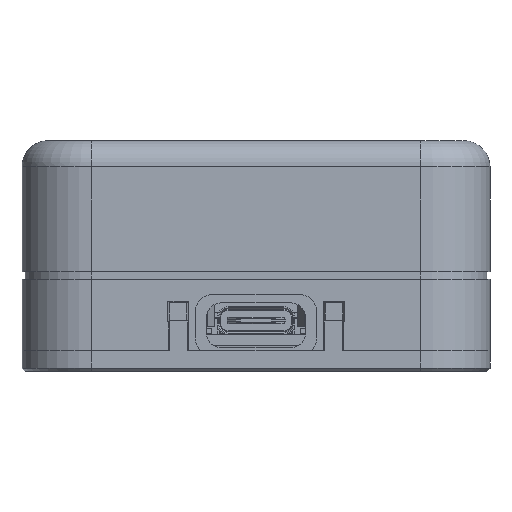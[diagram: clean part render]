
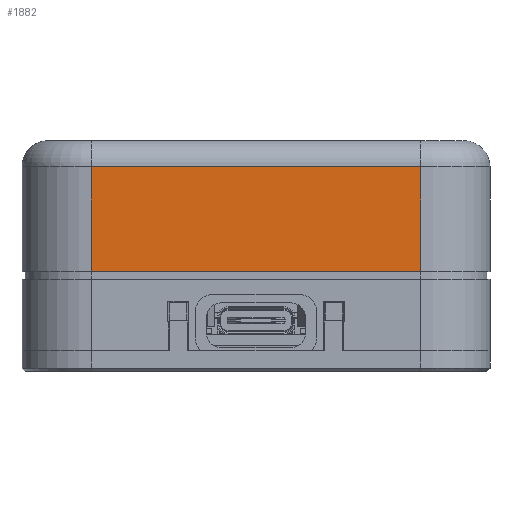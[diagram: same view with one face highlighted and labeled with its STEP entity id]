
A CAD part, front view. The second image highlights one B-rep face of the part: STEP entity #1882.
In plain terms, the highlighted planar face has unit normal (0, -1, 0).
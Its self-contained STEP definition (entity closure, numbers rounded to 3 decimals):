
#257 = CYLINDRICAL_SURFACE('',#258,3.);
#258 = AXIS2_PLACEMENT_3D('',#259,#260,#261);
#259 = CARTESIAN_POINT('',(19.,-21.,23.6));
#260 = DIRECTION('',(-1.,-0.,-0.));
#261 = DIRECTION('',(-0.,0.,1.));
#860 = VERTEX_POINT('',#861);
#861 = CARTESIAN_POINT('',(19.,-24.,23.6));
#896 = CYLINDRICAL_SURFACE('',#897,8.);
#897 = AXIS2_PLACEMENT_3D('',#898,#899,#900);
#898 = CARTESIAN_POINT('',(19.,-16.,2.4));
#899 = DIRECTION('',(0.,0.,1.));
#900 = DIRECTION('',(1.,0.,-0.));
#912 = EDGE_CURVE('',#860,#913,#915,.T.);
#913 = VERTEX_POINT('',#914);
#914 = CARTESIAN_POINT('',(-19.,-24.,23.6));
#915 = SURFACE_CURVE('',#916,(#920,#927),.PCURVE_S1.);
#916 = LINE('',#917,#918);
#917 = CARTESIAN_POINT('',(19.,-24.,23.6));
#918 = VECTOR('',#919,1.);
#919 = DIRECTION('',(-1.,-0.,-0.));
#920 = PCURVE('',#257,#921);
#921 = DEFINITIONAL_REPRESENTATION('',(#922),#926);
#922 = LINE('',#923,#924);
#923 = CARTESIAN_POINT('',(-1.571,0.));
#924 = VECTOR('',#925,1.);
#925 = DIRECTION('',(-0.,1.));
#926 = ( GEOMETRIC_REPRESENTATION_CONTEXT(2) 
PARAMETRIC_REPRESENTATION_CONTEXT() REPRESENTATION_CONTEXT('2D SPACE',''
  ) );
#927 = PCURVE('',#928,#933);
#928 = PLANE('',#929);
#929 = AXIS2_PLACEMENT_3D('',#930,#931,#932);
#930 = CARTESIAN_POINT('',(-27.,-24.,2.4));
#931 = DIRECTION('',(0.,1.,0.));
#932 = DIRECTION('',(0.,0.,1.));
#933 = DEFINITIONAL_REPRESENTATION('',(#934),#938);
#934 = LINE('',#935,#936);
#935 = CARTESIAN_POINT('',(21.2,46.));
#936 = VECTOR('',#937,1.);
#937 = DIRECTION('',(0.,-1.));
#938 = ( GEOMETRIC_REPRESENTATION_CONTEXT(2) 
PARAMETRIC_REPRESENTATION_CONTEXT() REPRESENTATION_CONTEXT('2D SPACE',''
  ) );
#1040 = CYLINDRICAL_SURFACE('',#1041,8.);
#1041 = AXIS2_PLACEMENT_3D('',#1042,#1043,#1044);
#1042 = CARTESIAN_POINT('',(-19.,-16.,2.4));
#1043 = DIRECTION('',(0.,0.,1.));
#1044 = DIRECTION('',(-1.,-0.,0.));
#1655 = PLANE('',#1656);
#1656 = AXIS2_PLACEMENT_3D('',#1657,#1658,#1659);
#1657 = CARTESIAN_POINT('',(-27.5,-24.5,11.5));
#1658 = DIRECTION('',(0.,0.,1.));
#1659 = DIRECTION('',(1.,0.,0.));
#1838 = VERTEX_POINT('',#1839);
#1839 = CARTESIAN_POINT('',(19.,-24.,11.5));
#1861 = EDGE_CURVE('',#1838,#860,#1862,.T.);
#1862 = SURFACE_CURVE('',#1863,(#1867,#1874),.PCURVE_S1.);
#1863 = LINE('',#1864,#1865);
#1864 = CARTESIAN_POINT('',(19.,-24.,2.4));
#1865 = VECTOR('',#1866,1.);
#1866 = DIRECTION('',(0.,0.,1.));
#1867 = PCURVE('',#896,#1868);
#1868 = DEFINITIONAL_REPRESENTATION('',(#1869),#1873);
#1869 = LINE('',#1870,#1871);
#1870 = CARTESIAN_POINT('',(-1.571,0.));
#1871 = VECTOR('',#1872,1.);
#1872 = DIRECTION('',(-0.,1.));
#1873 = ( GEOMETRIC_REPRESENTATION_CONTEXT(2) 
PARAMETRIC_REPRESENTATION_CONTEXT() REPRESENTATION_CONTEXT('2D SPACE',''
  ) );
#1874 = PCURVE('',#928,#1875);
#1875 = DEFINITIONAL_REPRESENTATION('',(#1876),#1880);
#1876 = LINE('',#1877,#1878);
#1877 = CARTESIAN_POINT('',(0.,46.));
#1878 = VECTOR('',#1879,1.);
#1879 = DIRECTION('',(1.,0.));
#1880 = ( GEOMETRIC_REPRESENTATION_CONTEXT(2) 
PARAMETRIC_REPRESENTATION_CONTEXT() REPRESENTATION_CONTEXT('2D SPACE',''
  ) );
#1882 = ADVANCED_FACE('',(#1883),#928,.F.);
#1883 = FACE_BOUND('',#1884,.F.);
#1884 = EDGE_LOOP('',(#1885,#1906,#1927,#1928));
#1885 = ORIENTED_EDGE('',*,*,#1886,.F.);
#1886 = EDGE_CURVE('',#1887,#1838,#1889,.T.);
#1887 = VERTEX_POINT('',#1888);
#1888 = CARTESIAN_POINT('',(-19.,-24.,11.5));
#1889 = SURFACE_CURVE('',#1890,(#1894,#1900),.PCURVE_S1.);
#1890 = LINE('',#1891,#1892);
#1891 = CARTESIAN_POINT('',(-27.25,-24.,11.5));
#1892 = VECTOR('',#1893,1.);
#1893 = DIRECTION('',(1.,0.,0.));
#1894 = PCURVE('',#928,#1895);
#1895 = DEFINITIONAL_REPRESENTATION('',(#1896),#1899);
#1896 = B_SPLINE_CURVE_WITH_KNOTS('',1,(#1897,#1898),.UNSPECIFIED.,.F.,
  .F.,(2,2),(8.25,46.25),.PIECEWISE_BEZIER_KNOTS.);
#1897 = CARTESIAN_POINT('',(9.1,8.));
#1898 = CARTESIAN_POINT('',(9.1,46.));
#1899 = ( GEOMETRIC_REPRESENTATION_CONTEXT(2) 
PARAMETRIC_REPRESENTATION_CONTEXT() REPRESENTATION_CONTEXT('2D SPACE',''
  ) );
#1900 = PCURVE('',#1655,#1901);
#1901 = DEFINITIONAL_REPRESENTATION('',(#1902),#1905);
#1902 = B_SPLINE_CURVE_WITH_KNOTS('',1,(#1903,#1904),.UNSPECIFIED.,.F.,
  .F.,(2,2),(8.25,46.25),.PIECEWISE_BEZIER_KNOTS.);
#1903 = CARTESIAN_POINT('',(8.5,0.5));
#1904 = CARTESIAN_POINT('',(46.5,0.5));
#1905 = ( GEOMETRIC_REPRESENTATION_CONTEXT(2) 
PARAMETRIC_REPRESENTATION_CONTEXT() REPRESENTATION_CONTEXT('2D SPACE',''
  ) );
#1906 = ORIENTED_EDGE('',*,*,#1907,.T.);
#1907 = EDGE_CURVE('',#1887,#913,#1908,.T.);
#1908 = SURFACE_CURVE('',#1909,(#1913,#1920),.PCURVE_S1.);
#1909 = LINE('',#1910,#1911);
#1910 = CARTESIAN_POINT('',(-19.,-24.,2.4));
#1911 = VECTOR('',#1912,1.);
#1912 = DIRECTION('',(0.,0.,1.));
#1913 = PCURVE('',#928,#1914);
#1914 = DEFINITIONAL_REPRESENTATION('',(#1915),#1919);
#1915 = LINE('',#1916,#1917);
#1916 = CARTESIAN_POINT('',(0.,8.));
#1917 = VECTOR('',#1918,1.);
#1918 = DIRECTION('',(1.,0.));
#1919 = ( GEOMETRIC_REPRESENTATION_CONTEXT(2) 
PARAMETRIC_REPRESENTATION_CONTEXT() REPRESENTATION_CONTEXT('2D SPACE',''
  ) );
#1920 = PCURVE('',#1040,#1921);
#1921 = DEFINITIONAL_REPRESENTATION('',(#1922),#1926);
#1922 = LINE('',#1923,#1924);
#1923 = CARTESIAN_POINT('',(1.571,0.));
#1924 = VECTOR('',#1925,1.);
#1925 = DIRECTION('',(0.,1.));
#1926 = ( GEOMETRIC_REPRESENTATION_CONTEXT(2) 
PARAMETRIC_REPRESENTATION_CONTEXT() REPRESENTATION_CONTEXT('2D SPACE',''
  ) );
#1927 = ORIENTED_EDGE('',*,*,#912,.F.);
#1928 = ORIENTED_EDGE('',*,*,#1861,.F.);
